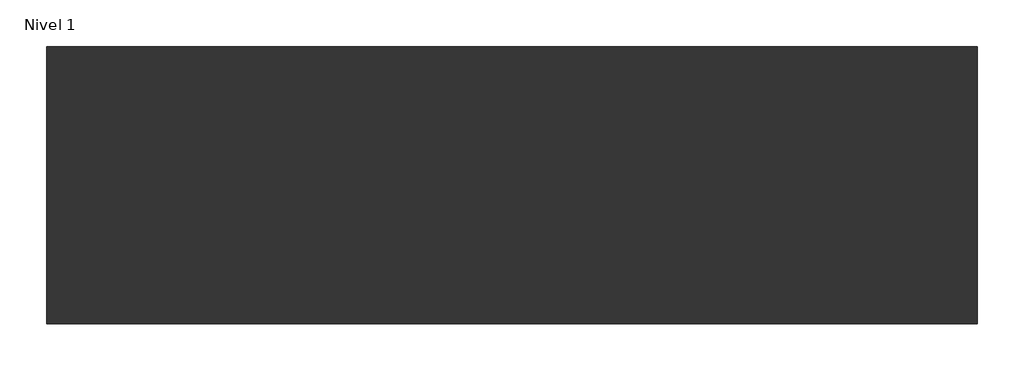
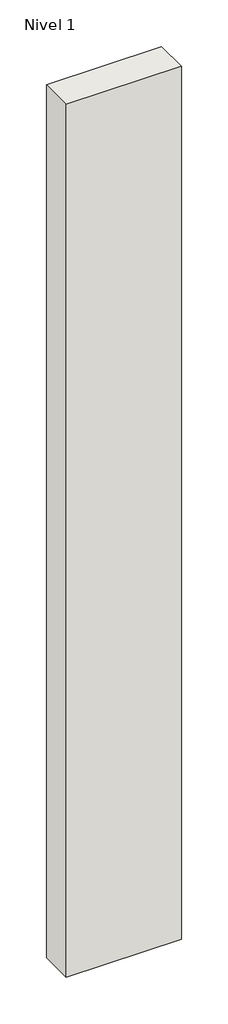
# One storey: 1 wall.
"""IFC4 building model written with IfcOpenShell, lengths in millimetres."""

from ifc_helpers import new_model, si_unit, origin, origin_with_axes, place, context, project, spatial, polyline, outline, extrude, element, save

model = new_model("IFC4")

# Units and contexts
model_context = context("Model", 3, world=origin())
ifc_project = project(units=[si_unit("LENGTHUNIT", "METRE", prefix="MILLI")], contexts=[model_context])

# Site, building, storey
site = spatial("IfcSite", under=ifc_project)
building = spatial("IfcBuilding", under=site)
storey = spatial("IfcBuildingStorey", under=building, Name="Nivel 1", Elevation=0.0)

# Wall
placement = place(None, origin())
element("IfcWall", 1, ObjectType="Revest + aisl. poliuretano + LC 1/2 pie + yeso", at=placement, inside=storey, context=model_context, shape_type="SweptSolid", body=[
    extrude(outline(polyline([(-3167.1347582, 3507.9505819), (-4167.1347582, 3507.9505819), (-4167.1347582, 3805.9505819), (-3167.1347582, 3805.9505819), (-3167.1347582, 3507.9505819)])), origin_with_axes(), (0.0, 0.0, 1.0), 8000.0),
])

save(model, "model.ifc")
